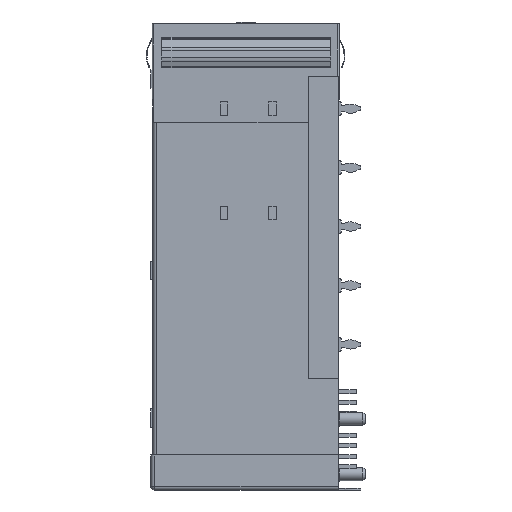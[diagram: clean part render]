
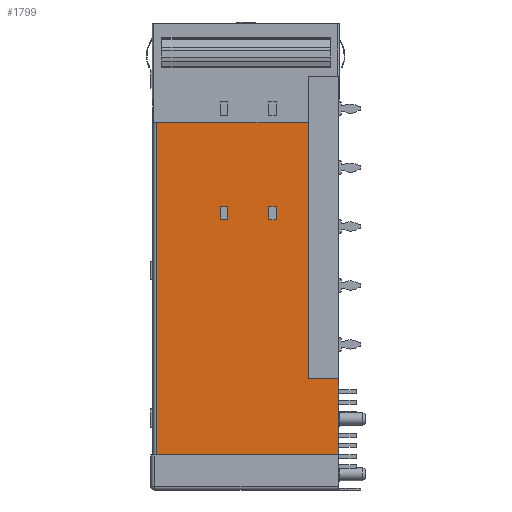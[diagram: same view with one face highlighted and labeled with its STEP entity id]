
A CAD part, left-side view. The second image highlights one B-rep face of the part: STEP entity #1799.
In plain terms, the highlighted planar face has unit normal (-1, 0, 0).
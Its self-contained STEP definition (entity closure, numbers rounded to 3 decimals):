
#108 = LINE ( 'NONE', #38058, #17656 ) ;
#506 = VERTEX_POINT ( 'NONE', #11651 ) ;
#623 = DIRECTION ( 'NONE',  ( 0., 0., 1. ) ) ;
#733 = EDGE_CURVE ( 'NONE', #39443, #12920, #20634, .T. ) ;
#939 = LINE ( 'NONE', #11431, #22363 ) ;
#1227 = CARTESIAN_POINT ( 'NONE',  ( -14.375, 8.45, -24.8 ) ) ;
#1448 = DIRECTION ( 'NONE',  ( 0., 0., 1. ) ) ;
#1620 = FACE_BOUND ( 'NONE', #19312, .T. ) ;
#1799 = ADVANCED_FACE ( 'NONE', ( #1620, #13536, #34947 ), #15631, .T. ) ;
#2031 = ORIENTED_EDGE ( 'NONE', *, *, #21240, .T. ) ;
#2243 = ORIENTED_EDGE ( 'NONE', *, *, #733, .T. ) ;
#2291 = CARTESIAN_POINT ( 'NONE',  ( -14.375, 8.45, -26.6 ) ) ;
#2942 = VERTEX_POINT ( 'NONE', #4933 ) ;
#3081 = ORIENTED_EDGE ( 'NONE', *, *, #28553, .T. ) ;
#3242 = ORIENTED_EDGE ( 'NONE', *, *, #30606, .T. ) ;
#3916 = EDGE_CURVE ( 'NONE', #13325, #2942, #16166, .T. ) ;
#3946 = LINE ( 'NONE', #10366, #8727 ) ;
#4149 = VERTEX_POINT ( 'NONE', #39036 ) ;
#4235 = CARTESIAN_POINT ( 'NONE',  ( -14.375, 4.1, -7.1 ) ) ;
#4624 = LINE ( 'NONE', #22478, #23695 ) ;
#4704 = ORIENTED_EDGE ( 'NONE', *, *, #26791, .T. ) ;
#4933 = CARTESIAN_POINT ( 'NONE',  ( -14.375, 0., -48.1 ) ) ;
#6483 = EDGE_CURVE ( 'NONE', #12920, #4149, #29844, .T. ) ;
#6904 = EDGE_CURVE ( 'NONE', #13898, #18290, #12173, .T. ) ;
#7501 = ORIENTED_EDGE ( 'NONE', *, *, #3916, .T. ) ;
#7607 = CARTESIAN_POINT ( 'NONE',  ( -14.375, 9.45, -26.6 ) ) ;
#7987 = DIRECTION ( 'NONE',  ( 0., -1., 0. ) ) ;
#8727 = VECTOR ( 'NONE', #1448, 1000. ) ;
#10366 = CARTESIAN_POINT ( 'NONE',  ( -14.375, 16., -24.8 ) ) ;
#10616 = CARTESIAN_POINT ( 'NONE',  ( -14.375, 16., -24.8 ) ) ;
#10934 = CARTESIAN_POINT ( 'NONE',  ( -14.375, 8.45, -24.8 ) ) ;
#11431 = CARTESIAN_POINT ( 'NONE',  ( -14.375, 25.2, -13.4 ) ) ;
#11651 = CARTESIAN_POINT ( 'NONE',  ( -14.375, 15., -26.6 ) ) ;
#12173 = LINE ( 'NONE', #32335, #31221 ) ;
#12797 = CARTESIAN_POINT ( 'NONE',  ( -14.375, 4.1, -13.4 ) ) ;
#12920 = VERTEX_POINT ( 'NONE', #7607 ) ;
#13325 = VERTEX_POINT ( 'NONE', #38412 ) ;
#13536 = FACE_BOUND ( 'NONE', #15942, .T. ) ;
#13746 = CARTESIAN_POINT ( 'NONE',  ( -14.375, 16., -26.6 ) ) ;
#13802 = CARTESIAN_POINT ( 'NONE',  ( -14.375, 15., -24.8 ) ) ;
#13898 = VERTEX_POINT ( 'NONE', #35845 ) ;
#13986 = CARTESIAN_POINT ( 'NONE',  ( -14.375, 9.45, -24.8 ) ) ;
#14428 = ORIENTED_EDGE ( 'NONE', *, *, #19930, .T. ) ;
#14644 = VECTOR ( 'NONE', #28450, 1000. ) ;
#14687 = ORIENTED_EDGE ( 'NONE', *, *, #6483, .T. ) ;
#14822 = DIRECTION ( 'NONE',  ( 0., 0., 1. ) ) ;
#14841 = ORIENTED_EDGE ( 'NONE', *, *, #6904, .T. ) ;
#14938 = ORIENTED_EDGE ( 'NONE', *, *, #27444, .F. ) ;
#15631 = PLANE ( 'NONE',  #30236 ) ;
#15942 = EDGE_LOOP ( 'NONE', ( #14428, #2031, #26494, #3242 ) ) ;
#16166 = LINE ( 'NONE', #29206, #26139 ) ;
#16576 = VERTEX_POINT ( 'NONE', #36134 ) ;
#16708 = EDGE_LOOP ( 'NONE', ( #14938, #14841, #3081, #7501, #21052, #24855 ) ) ;
#17428 = DIRECTION ( 'NONE',  ( 0., 0., -1. ) ) ;
#17452 = CARTESIAN_POINT ( 'NONE',  ( -14.375, 4.1, -48.1 ) ) ;
#17656 = VECTOR ( 'NONE', #17428, 1000. ) ;
#18290 = VERTEX_POINT ( 'NONE', #20183 ) ;
#18896 = DIRECTION ( 'NONE',  ( 0., 0., 1. ) ) ;
#19189 = CARTESIAN_POINT ( 'NONE',  ( -14.375, 9.45, -26.6 ) ) ;
#19312 = EDGE_LOOP ( 'NONE', ( #26329, #4704, #2243, #14687 ) ) ;
#19393 = VECTOR ( 'NONE', #14822, 1000. ) ;
#19867 = CARTESIAN_POINT ( 'NONE',  ( -14.375, 25.2, -58.5 ) ) ;
#19930 = EDGE_CURVE ( 'NONE', #24803, #20029, #28910, .T. ) ;
#20029 = VERTEX_POINT ( 'NONE', #13802 ) ;
#20183 = CARTESIAN_POINT ( 'NONE',  ( -14.375, 24.7, -58.5 ) ) ;
#20634 = LINE ( 'NONE', #19189, #26798 ) ;
#20946 = CARTESIAN_POINT ( 'NONE',  ( -14.375, 9.45, -24.8 ) ) ;
#21052 = ORIENTED_EDGE ( 'NONE', *, *, #38644, .T. ) ;
#21240 = EDGE_CURVE ( 'NONE', #20029, #506, #108, .T. ) ;
#22249 = LINE ( 'NONE', #19867, #38425 ) ;
#22363 = VECTOR ( 'NONE', #32843, 1000. ) ;
#22478 = CARTESIAN_POINT ( 'NONE',  ( -14.375, 0., -48.1 ) ) ;
#23561 = EDGE_CURVE ( 'NONE', #506, #16576, #29384, .T. ) ;
#23695 = VECTOR ( 'NONE', #34446, 1000. ) ;
#24803 = VERTEX_POINT ( 'NONE', #30389 ) ;
#24855 = ORIENTED_EDGE ( 'NONE', *, *, #37491, .T. ) ;
#25105 = VERTEX_POINT ( 'NONE', #17452 ) ;
#25691 = DIRECTION ( 'NONE',  ( 0., -1., 0. ) ) ;
#26113 = DIRECTION ( 'NONE',  ( 0., 0., 1. ) ) ;
#26139 = VECTOR ( 'NONE', #26113, 1000. ) ;
#26329 = ORIENTED_EDGE ( 'NONE', *, *, #31868, .T. ) ;
#26338 = LINE ( 'NONE', #4235, #32521 ) ;
#26494 = ORIENTED_EDGE ( 'NONE', *, *, #23561, .T. ) ;
#26791 = EDGE_CURVE ( 'NONE', #27252, #39443, #38114, .T. ) ;
#26798 = VECTOR ( 'NONE', #32328, 1000. ) ;
#27252 = VERTEX_POINT ( 'NONE', #1227 ) ;
#27444 = EDGE_CURVE ( 'NONE', #13898, #29893, #939, .T. ) ;
#27887 = DIRECTION ( 'NONE',  ( -1., 0., 0. ) ) ;
#28450 = DIRECTION ( 'NONE',  ( 0., -1., 0. ) ) ;
#28553 = EDGE_CURVE ( 'NONE', #18290, #13325, #22249, .T. ) ;
#28888 = DIRECTION ( 'NONE',  ( 0., 0., -1. ) ) ;
#28910 = LINE ( 'NONE', #10616, #14644 ) ;
#29206 = CARTESIAN_POINT ( 'NONE',  ( -14.375, 0., -63.25 ) ) ;
#29384 = LINE ( 'NONE', #13746, #33655 ) ;
#29525 = VECTOR ( 'NONE', #37966, 1000. ) ;
#29844 = LINE ( 'NONE', #20946, #19393 ) ;
#29893 = VERTEX_POINT ( 'NONE', #12797 ) ;
#30129 = VECTOR ( 'NONE', #7987, 1000. ) ;
#30236 = AXIS2_PLACEMENT_3D ( 'NONE', #34004, #27887, #623 ) ;
#30389 = CARTESIAN_POINT ( 'NONE',  ( -14.375, 16., -24.8 ) ) ;
#30606 = EDGE_CURVE ( 'NONE', #16576, #24803, #3946, .T. ) ;
#31221 = VECTOR ( 'NONE', #28888, 1000. ) ;
#31868 = EDGE_CURVE ( 'NONE', #4149, #27252, #37730, .T. ) ;
#32328 = DIRECTION ( 'NONE',  ( 0., 1., 0. ) ) ;
#32335 = CARTESIAN_POINT ( 'NONE',  ( -14.375, 24.7, -63.25 ) ) ;
#32521 = VECTOR ( 'NONE', #18896, 1000. ) ;
#32843 = DIRECTION ( 'NONE',  ( 0., -1., 0. ) ) ;
#33655 = VECTOR ( 'NONE', #35040, 1000. ) ;
#34004 = CARTESIAN_POINT ( 'NONE',  ( -14.375, 0., -63.25 ) ) ;
#34446 = DIRECTION ( 'NONE',  ( 0., 1., 0. ) ) ;
#34947 = FACE_OUTER_BOUND ( 'NONE', #16708, .T. ) ;
#35040 = DIRECTION ( 'NONE',  ( 0., 1., 0. ) ) ;
#35845 = CARTESIAN_POINT ( 'NONE',  ( -14.375, 24.7, -13.4 ) ) ;
#36134 = CARTESIAN_POINT ( 'NONE',  ( -14.375, 16., -26.6 ) ) ;
#37491 = EDGE_CURVE ( 'NONE', #25105, #29893, #26338, .T. ) ;
#37730 = LINE ( 'NONE', #13986, #30129 ) ;
#37966 = DIRECTION ( 'NONE',  ( 0., 0., -1. ) ) ;
#38058 = CARTESIAN_POINT ( 'NONE',  ( -14.375, 15., -24.8 ) ) ;
#38114 = LINE ( 'NONE', #10934, #29525 ) ;
#38412 = CARTESIAN_POINT ( 'NONE',  ( -14.375, 0., -58.5 ) ) ;
#38425 = VECTOR ( 'NONE', #25691, 1000. ) ;
#38644 = EDGE_CURVE ( 'NONE', #2942, #25105, #4624, .T. ) ;
#39036 = CARTESIAN_POINT ( 'NONE',  ( -14.375, 9.45, -24.8 ) ) ;
#39443 = VERTEX_POINT ( 'NONE', #2291 ) ;
